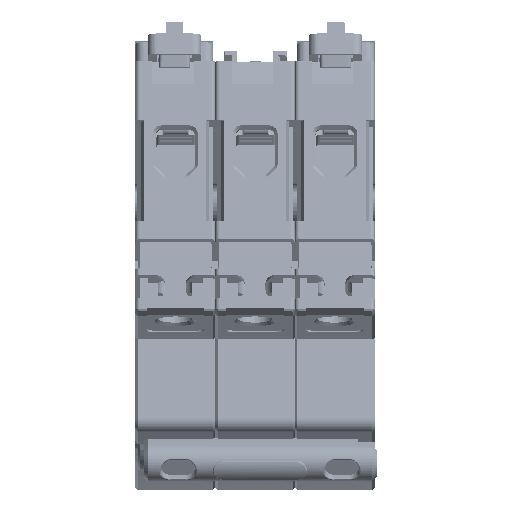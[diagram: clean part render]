
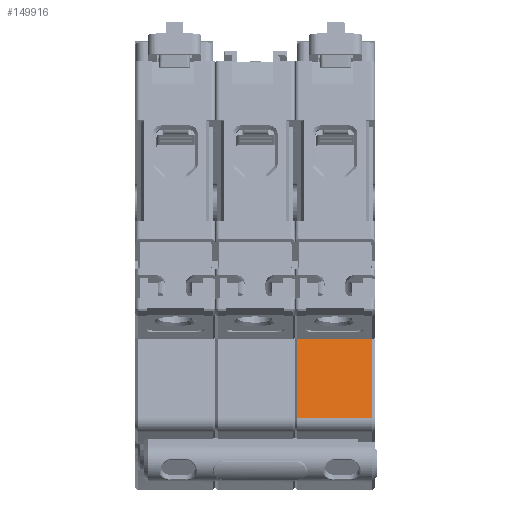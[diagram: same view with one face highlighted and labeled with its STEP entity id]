
A CAD part, left-side view. The second image highlights one B-rep face of the part: STEP entity #149916.
In plain terms, the highlighted planar face has unit normal (-0.972, 0, 0.236).
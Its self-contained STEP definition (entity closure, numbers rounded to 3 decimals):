
#131372=DIRECTION('',(0.,1.,0.));
#131373=VECTOR('',#131372,12.7);
#131374=CARTESIAN_POINT('',(62.469,0.538,
-46.953));
#131375=LINE('',#131374,#131373);
#131376=DIRECTION('',(0.,1.,0.));
#131377=VECTOR('',#131376,6.35);
#131378=CARTESIAN_POINT('',(65.711,0.538,
-33.631));
#131379=LINE('',#131378,#131377);
#131384=DIRECTION('',(0.,-1.,0.));
#131385=VECTOR('',#131384,6.35);
#131386=CARTESIAN_POINT('',(65.711,13.238,
-33.631));
#131387=LINE('',#131386,#131385);
#139596=DIRECTION('',(0.236,0.,0.972));
#139597=VECTOR('',#139596,13.711);
#139598=CARTESIAN_POINT('',(62.469,13.238,
-46.953));
#139599=LINE('',#139598,#139597);
#141687=DIRECTION('',(-0.236,0.,-0.972));
#141688=VECTOR('',#141687,13.711);
#141689=CARTESIAN_POINT('',(65.711,0.538,
-33.631));
#141690=LINE('',#141689,#141688);
#144170=CARTESIAN_POINT('',(62.469,0.538,
-46.953));
#144171=VERTEX_POINT('',#144170);
#144172=CARTESIAN_POINT('',(62.469,13.238,
-46.953));
#144173=VERTEX_POINT('',#144172);
#144174=CARTESIAN_POINT('',(65.711,0.538,
-33.631));
#144175=VERTEX_POINT('',#144174);
#144176=CARTESIAN_POINT('',(65.711,6.888,
-33.631));
#144177=VERTEX_POINT('',#144176);
#144178=CARTESIAN_POINT('',(65.711,13.238,
-33.631));
#144179=VERTEX_POINT('',#144178);
#149900=CARTESIAN_POINT('',(62.041,6.888,
-48.71));
#149901=DIRECTION('',(-0.972,0.,0.236));
#149902=DIRECTION('',(0.236,0.,0.972));
#149903=AXIS2_PLACEMENT_3D('',#149900,#149901,#149902);
#149904=PLANE('',#149903);
#149905=ORIENTED_EDGE('',*,*,#149881,.T.);
#149907=ORIENTED_EDGE('',*,*,#149906,.T.);
#149909=ORIENTED_EDGE('',*,*,#149908,.T.);
#149911=ORIENTED_EDGE('',*,*,#149910,.F.);
#149913=ORIENTED_EDGE('',*,*,#149912,.T.);
#149914=EDGE_LOOP('',(#149905,#149907,#149909,#149911,#149913));
#149915=FACE_OUTER_BOUND('',#149914,.F.);
#149916=ADVANCED_FACE('',(#149915),#149904,.T.);
#149881=EDGE_CURVE('',#144171,#144173,#131375,.T.);
#149906=EDGE_CURVE('',#144173,#144179,#139599,.T.);
#149908=EDGE_CURVE('',#144179,#144177,#131387,.T.);
#149910=EDGE_CURVE('',#144175,#144177,#131379,.T.);
#149912=EDGE_CURVE('',#144175,#144171,#141690,.T.);
